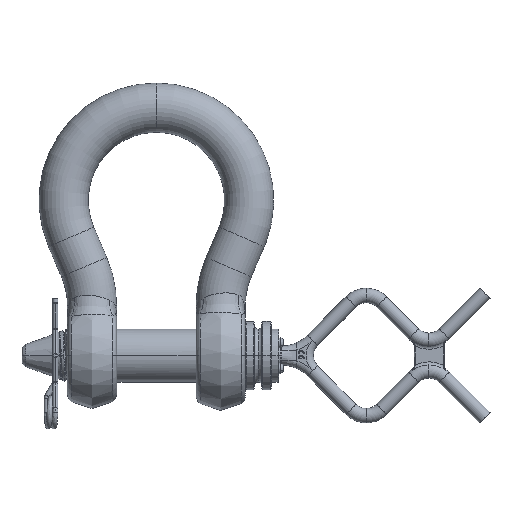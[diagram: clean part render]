
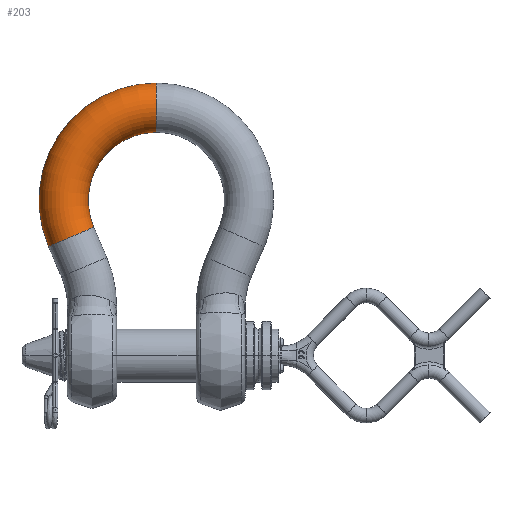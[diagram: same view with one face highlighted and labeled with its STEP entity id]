
A CAD part, top view. The second image highlights one B-rep face of the part: STEP entity #203.
In plain terms, the highlighted toroidal (fillet/blend) face has major radius 122.5 mm and minor radius 32.5 mm.
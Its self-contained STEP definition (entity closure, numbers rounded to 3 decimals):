
#203=ADVANCED_FACE('',(#1288),#1289,.T.);
#1288=FACE_OUTER_BOUND('',#3453,.T.);
#1289=TOROIDAL_SURFACE('',#3454,122.5,32.5);
#3453=EDGE_LOOP('',(#21711,#21712,#21713,#21714));
#3454=AXIS2_PLACEMENT_3D('',#21715,#21716,#21717);
#21711=ORIENTED_EDGE('',*,*,#29164,.T.);
#21712=ORIENTED_EDGE('',*,*,#29247,.T.);
#21713=ORIENTED_EDGE('',*,*,#29165,.T.);
#21714=ORIENTED_EDGE('',*,*,#29268,.F.);
#21715=CARTESIAN_POINT('',(0.0,0.0,0.0));
#21716=DIRECTION('',(0.0,-0.0,1.0));
#21717=DIRECTION('',(0.,1.0,0.0));
#29164=EDGE_CURVE('',#31808,#32138,#32139,.T.);
#29165=EDGE_CURVE('',#32140,#31806,#32141,.T.);
#29247=EDGE_CURVE('',#32138,#32140,#32299,.T.);
#29268=EDGE_CURVE('',#31808,#31806,#32339,.T.);
#31806=VERTEX_POINT('',#36577);
#31808=VERTEX_POINT('',#36579);
#32138=VERTEX_POINT('',#38380);
#32139=CIRCLE('',#38381,155.0);
#32140=VERTEX_POINT('',#38382);
#32141=CIRCLE('',#38383,90.0);
#32299=CIRCLE('',#39233,32.5);
#32339=CIRCLE('',#39440,32.5);
#36577=CARTESIAN_POINT('',(0.,90.0,0.));
#36579=CARTESIAN_POINT('',(0.,155.0,0.));
#38380=CARTESIAN_POINT('',(-142.496,-60.99,0.));
#38381=AXIS2_PLACEMENT_3D('',#74104,#74105,#74106);
#38382=CARTESIAN_POINT('',(-82.74,-35.413,0.));
#38383=AXIS2_PLACEMENT_3D('',#74107,#74108,#74109);
#39233=AXIS2_PLACEMENT_3D('',#74219,#74220,#74221);
#39440=AXIS2_PLACEMENT_3D('',#74242,#74243,#74244);
#74104=CARTESIAN_POINT('',(0.0,0.0,0.));
#74105=DIRECTION('',(0.0,-0.0,1.0));
#74106=DIRECTION('',(1.0,0.0,-0.0));
#74107=CARTESIAN_POINT('',(0.0,0.0,0.));
#74108=DIRECTION('',(0.0,0.0,-1.0));
#74109=DIRECTION('',(0.,1.0,0.0));
#74219=CARTESIAN_POINT('',(-112.618,-48.202,0.0));
#74220=DIRECTION('',(-0.393,0.919,0.0));
#74221=DIRECTION('',(0.0,0.0,-1.0));
#74242=CARTESIAN_POINT('',(0.,122.5,0.0));
#74243=DIRECTION('',(1.0,0.,-0.0));
#74244=DIRECTION('',(0.,1.0,0.0));
